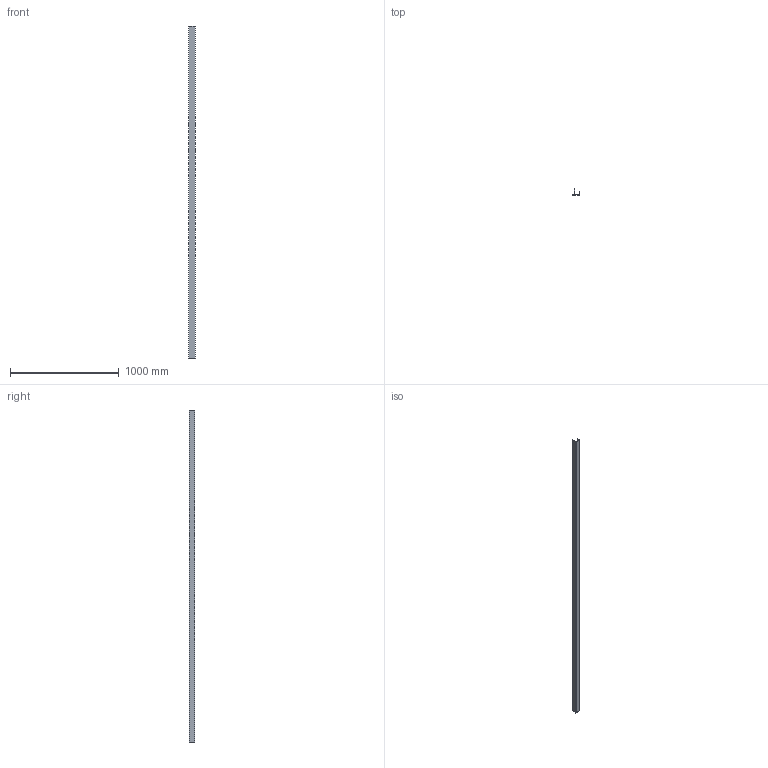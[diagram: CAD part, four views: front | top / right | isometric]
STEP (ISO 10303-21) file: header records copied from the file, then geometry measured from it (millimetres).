
FILE_DESCRIPTION (( 'STEP AP203' ), '1' );
FILE_NAME ('M03B.STEP', '2018-06-18T17:23:09', ( 'Michael Moliner' ), ( '' ), 'SwSTEP 2.0', 'SolidWorks 2018', '' );
FILE_SCHEMA (( 'CONFIG_CONTROL_DESIGN' ));
Length unit declared in the file: inch
Products named in the file (2): M03B
Bounding box: 59.94 x 52.58 x 3048 mm (x, y, z)
Volume: 310116 mm3; surface area: 1224229.2 mm2
Topology: 1 solids, 1 shells, 21 faces, 57 edges, 38 vertices
Faces by surface type: plane 14, cylinder 7
Entity records: 822 total; most frequent: CARTESIAN_POINT 118, DIRECTION 117, ORIENTED_EDGE 114, EDGE_CURVE 57, VECTOR 43, LINE 43, VERTEX_POINT 38, AXIS2_PLACEMENT_3D 37
